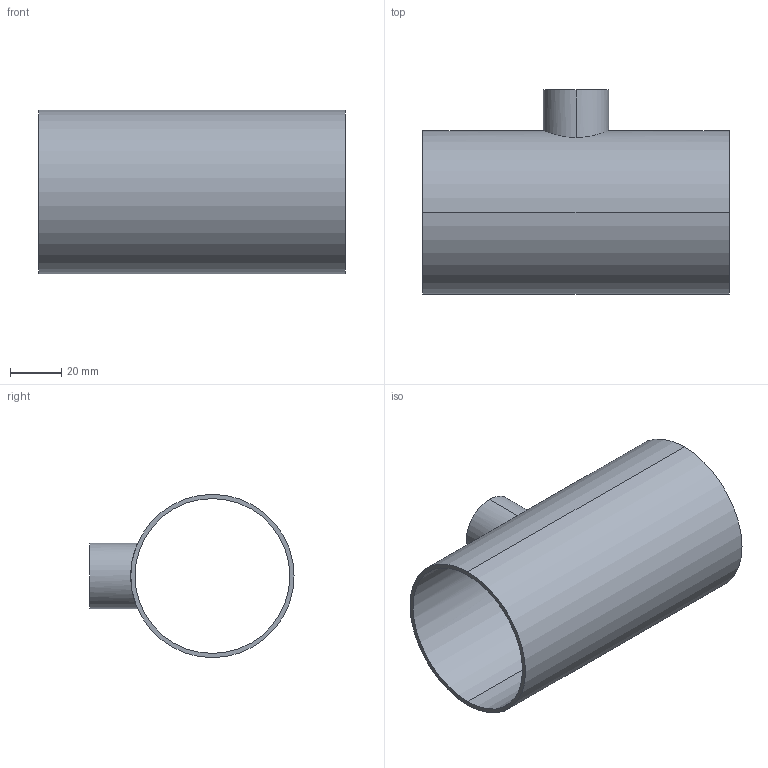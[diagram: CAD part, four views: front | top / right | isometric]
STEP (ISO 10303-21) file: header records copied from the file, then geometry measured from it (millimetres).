
FILE_DESCRIPTION (( 'STEP AP203' ), '1' );
FILE_NAME ('E7RWWW2.5X1.0.STEP', '2018-04-30T18:49:36', ( 'vneprd' ), ( 'Microsoft' ), 'SwSTEP 2.0', 'SolidWorks 2014', '' );
FILE_SCHEMA (( 'CONFIG_CONTROL_DESIGN' ));
Length unit declared in the file: inch
Products named in the file (1): E7RWWW2.5X1.0
Bounding box: 119.05 x 79.38 x 63.5 mm (x, y, z)
Volume: 39643.7 mm3; surface area: 48781.1 mm2
Topology: 1 solids, 1 shells, 11 faces, 24 edges, 16 vertices
Faces by surface type: cylinder 8, plane 3
Entity records: 587 total; most frequent: CARTESIAN_POINT 250, DIRECTION 56, ORIENTED_EDGE 48, AXIS2_PLACEMENT_3D 24, EDGE_CURVE 24, VERTEX_POINT 16, EDGE_LOOP 16, CIRCLE 12
